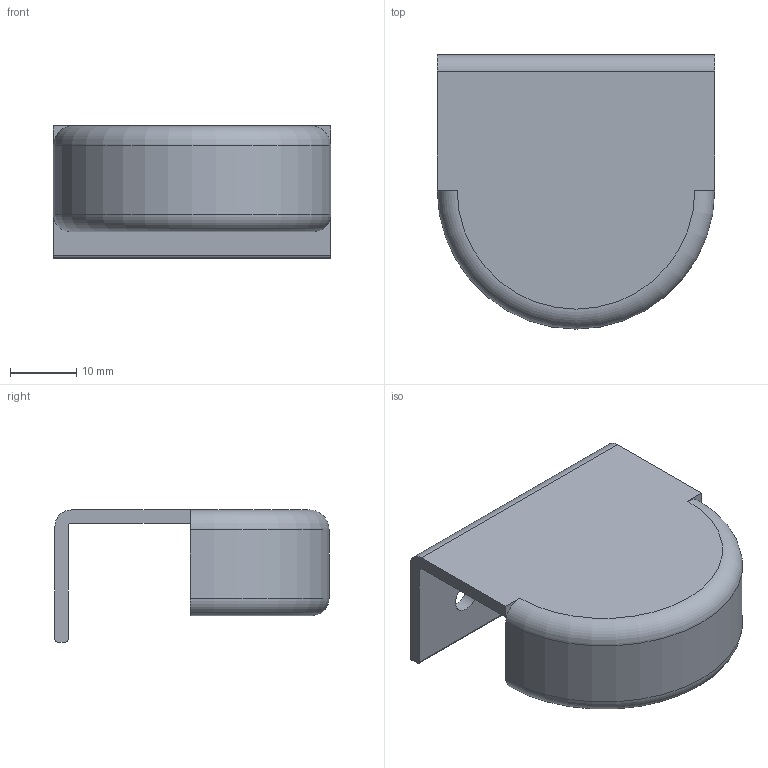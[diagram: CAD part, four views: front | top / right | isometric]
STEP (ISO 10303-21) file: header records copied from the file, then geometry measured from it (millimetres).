
FILE_DESCRIPTION(('Open CASCADE Model'),'2;1');
FILE_NAME('FL-LIP-D-42','2026-10-19T21:24:03',('Author'),('Open CASCADE' ),'Open CASCADE STEP processor 8.0','build123d','Unknown');
FILE_SCHEMA(('AUTOMOTIVE_DESIGN { 1 0 10303 214 1 1 1 1 }'));
Length unit declared in the file: millimetre
Products named in the file (2): FL-LIP-D-42; brass_FL-LIPD42-18__e
Assembly tree (1 placements, depth 2):
  FL-LIP-D-42
    brass_FL-LIPD42-18__e
Bounding box: 42 x 41.5 x 20 mm (x, y, z)
Volume: 6334.2 mm3; surface area: 6779.6 mm2
Topology: 1 solids, 1 shells, 28 faces, 76 edges, 50 vertices
Faces by surface type: plane 13, cylinder 9, torus 6
Full cylindrical faces by diameter (mm): 4.5 x2
Entity records: 1974 total; most frequent: CARTESIAN_POINT 404, DIRECTION 310, LINE 158, VECTOR 158, ORIENTED_EDGE 152, PCURVE 152, DEFINITIONAL_REPRESENTATION 152, EDGE_CURVE 76
